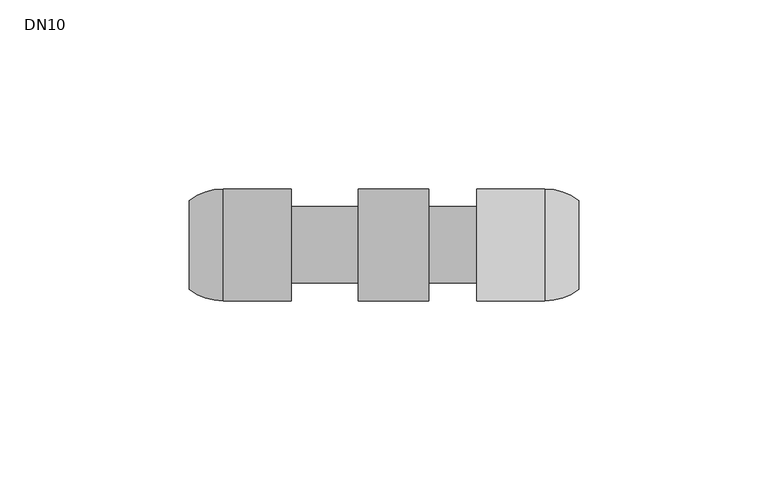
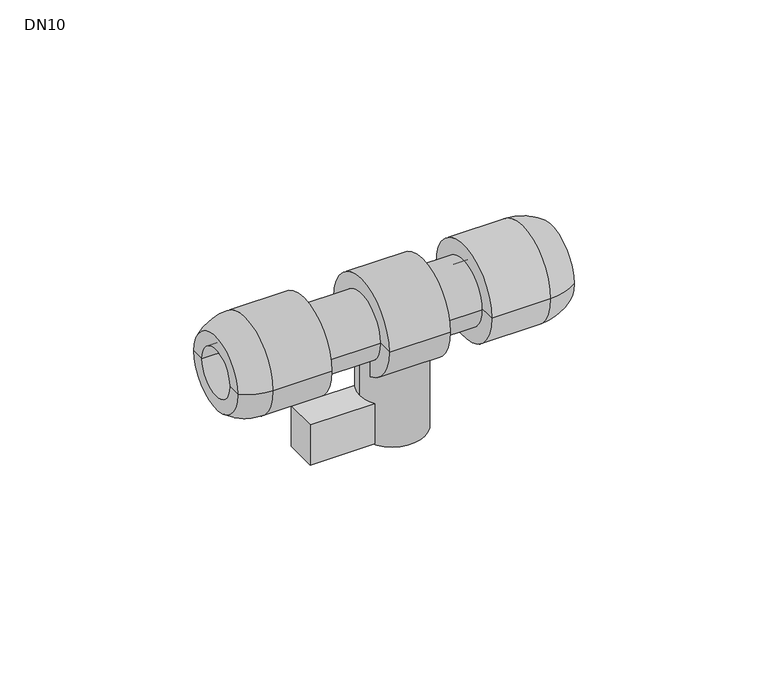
"""IFC4 building model written with IfcOpenShell, lengths in millimetres: valve geometry, Wavin_PipeAccessory_Hep2oBallValveBrass : DN10."""

from ifc_helpers import new_model, si_unit, point, frame, frame_2d, origin, place, context, project, spatial, polyline, circle_curve, ellipse_curve, trimmed, segment, composite_curve, outline, extrude, source, transform, mapped, element, save
from ifc_brep_helpers import plane_surface, cylinder_surface, revolved_surface, advanced_brep


def dn10_fe27804f(model_context):
    return source(origin(), model_context, "Body", "SolidModel", [
        advanced_brep(
        [(22.0, 7.5, 0.0), (22.0, -7.5, 0.0), (49.0, -7.5, 0.0), (49.0, 7.5, 0.0), (22.0, 14.8, 0.0), (22.0, -14.8, 0.0), (40.0, 14.8, 0.0), (40.0, -14.8, 0.0), (49.0, 11.7490425, 0.0), (49.0, -11.7490425, 0.0)],
        [
            (0, 1, circle_curve(frame((22.0, 0.0, 0.0), z_axis=(-1.0, 0.0, 0.0), x_axis=(0.0, -1.0000000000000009, 0.0)), 7.5)),
            (1, 2),
            (2, 3, circle_curve(frame((49.0, 0.0, 0.0), z_axis=(1.0, 0.0, 0.0), x_axis=(0.0, -1.0000000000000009, 0.0)), 7.5)),
            (3, 0),
            (1, 0, circle_curve(frame((22.0, 0.0, 0.0), z_axis=(-1.0, 0.0, 0.0), x_axis=(0.0, -1.0000000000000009, 0.0)), 7.5)),
            (3, 2, circle_curve(frame((49.0, 0.0, 0.0), z_axis=(1.0, 0.0, 0.0), x_axis=(0.0, -1.0000000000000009, 0.0)), 7.5)),
            (4, 5, circle_curve(frame((22.0, 0.0, 0.0), z_axis=(-1.0, 0.0, 0.0), x_axis=(0.0, -1.0000000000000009, 0.0)), 14.8)),
            (5, 1),
            (0, 4),
            (5, 4, circle_curve(frame((22.0, 0.0, 0.0), z_axis=(-1.0, 0.0, 0.0), x_axis=(0.0, -1.0000000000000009, 0.0)), 14.8)),
            (6, 7, circle_curve(frame((40.0, 0.0, 0.0), z_axis=(-1.0, 0.0, 0.0), x_axis=(0.0, -1.0000000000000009, 0.0)), 14.8)),
            (7, 5),
            (4, 6),
            (7, 6, circle_curve(frame((40.0, 0.0, 0.0), z_axis=(-1.0, 0.0, 0.0), x_axis=(0.0, -1.0000000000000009, 0.0)), 14.8)),
            (8, 9, circle_curve(frame((49.0, 0.0, 0.0), z_axis=(-1.0, 0.0, 0.0), x_axis=(0.0, -1.0000000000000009, 0.0)), 11.7490425)),
            (9, 7, circle_curve(frame((40.0, 0.0, 0.0), z_axis=(0.0, 0.0, -1.0000000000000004), x_axis=(-1.0000000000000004, 0.0, 0.0)), 14.8)),
            (6, 8, circle_curve(frame((40.0, 0.0, 0.0), z_axis=(0.0, 0.0, -1.0000000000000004), x_axis=(-1.0000000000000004, 0.0, 0.0)), 14.8)),
            (9, 8, circle_curve(frame((49.0, 0.0, 0.0), z_axis=(-1.0, 0.0, 0.0), x_axis=(0.0, -1.0000000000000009, 0.0)), 11.7490425)),
            (2, 9),
            (8, 3),
        ],
        [
            revolved_surface(polyline([(49.00000000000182, -7.500000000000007, 0.0), (22.00000000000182, -7.500000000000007, 0.0)]), (-1978.0, 0.0, 0.0), (1.0000000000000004, 0.0, 0.0)),
            plane_surface(frame((22.0, 0.0, 0.0), z_axis=(-1.0, 0.0, 0.0), x_axis=(0.0, -1.0, 0.0))),
            cylinder_surface(frame((-1978.0, 0.0, 0.0), z_axis=(1.0000000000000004, 0.0, 0.0), x_axis=(0.0, -1.0000000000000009, 0.0)), 14.8),
            revolved_surface(trimmed(ellipse_curve(frame((40.0, 0.0, 0.0), z_axis=(0.0, 0.0, 1.0000000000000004), x_axis=(-1.0000000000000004, 0.0, 0.0)), 14.8, 14.8), [point((40.0, -14.8, 0.0))], [point((49.0, -11.7490425, 0.0))], True, "CARTESIAN"), (-1978.0, 0.0, 0.0), (1.0000000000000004, 0.0, 0.0)),
            plane_surface(frame((49.0, 0.0, 0.0), z_axis=(1.0, 0.0, 0.0), x_axis=(0.0, -1.0, 0.0))),
        ],
        [
            (0, [[1, 2, 3, 4]]),
            (0, [[5, -4, 6, -2]]),
            (1, [[7, 8, -1, 9]]),
            (1, [[10, -9, -5, -8]]),
            (2, [[11, 12, -7, 13]]),
            (2, [[14, -13, -10, -12]]),
            (3, [[15, 16, -11, 17]]),
            (3, [[18, -17, -14, -16]]),
            (4, [[-3, 19, -15, 20]]),
            (4, [[-6, -20, -18, -19]]),
        ],
    ),
        advanced_brep(
        [(-27.0, -7.5, 0.0), (-27.0, 7.5, 0.0), (-54.0, 7.5, 0.0), (-54.0, -7.5, 0.0), (-27.0, -14.8, 0.0), (-27.0, 14.8, 0.0), (-45.0, -14.8, 0.0), (-45.0, 14.8, 0.0), (-54.0, -11.7490425, 0.0), (-54.0, 11.7490425, 0.0)],
        [
            (0, 1, circle_curve(frame((-27.0, 0.0, 0.0), z_axis=(1.0, 0.0, 0.0), x_axis=(0.0, 1.0, 0.0)), 7.5)),
            (1, 2),
            (2, 3, circle_curve(frame((-54.0, 0.0, 0.0), z_axis=(-1.0, 0.0, 0.0), x_axis=(0.0, 1.0, 0.0)), 7.5)),
            (3, 0),
            (1, 0, circle_curve(frame((-27.0, 0.0, 0.0), z_axis=(1.0, 0.0, 0.0), x_axis=(0.0, 1.0, 0.0)), 7.5)),
            (3, 2, circle_curve(frame((-54.0, 0.0, 0.0), z_axis=(-1.0, 0.0, 0.0), x_axis=(0.0, 1.0, 0.0)), 7.5)),
            (4, 5, circle_curve(frame((-27.0, 0.0, 0.0), z_axis=(1.0, 0.0, 0.0), x_axis=(0.0, 1.0, 0.0)), 14.8)),
            (5, 1),
            (0, 4),
            (5, 4, circle_curve(frame((-27.0, 0.0, 0.0), z_axis=(1.0, 0.0, 0.0), x_axis=(0.0, 1.0, 0.0)), 14.8)),
            (6, 7, circle_curve(frame((-45.0, 0.0, 0.0), z_axis=(1.0, 0.0, 0.0), x_axis=(0.0, 1.0, 0.0)), 14.8)),
            (7, 5),
            (4, 6),
            (7, 6, circle_curve(frame((-45.0, 0.0, 0.0), z_axis=(1.0, 0.0, 0.0), x_axis=(0.0, 1.0, 0.0)), 14.8)),
            (8, 9, circle_curve(frame((-54.0, 0.0, 0.0), z_axis=(1.0, 0.0, 0.0), x_axis=(0.0, 1.0, 0.0)), 11.7490425)),
            (9, 7, circle_curve(frame((-45.0, 0.0, 0.0), z_axis=(0.0, 0.0, -1.0), x_axis=(1.0, 0.0, 0.0)), 14.8)),
            (6, 8, circle_curve(frame((-45.0, 0.0, 0.0), z_axis=(0.0, 0.0, -1.0), x_axis=(1.0, 0.0, 0.0)), 14.8)),
            (9, 8, circle_curve(frame((-54.0, 0.0, 0.0), z_axis=(1.0, 0.0, 0.0), x_axis=(0.0, 1.0, 0.0)), 11.7490425)),
            (2, 9),
            (8, 3),
        ],
        [
            revolved_surface(polyline([(-54.0, 7.5, 0.0), (-27.0, 7.5, 0.0)]), (1973.0, 0.0, 0.0), (-1.0, 0.0, 0.0)),
            plane_surface(frame((-27.0, 0.0, 0.0), z_axis=(1.0, 0.0, 0.0), x_axis=(0.0, 1.0, 0.0))),
            cylinder_surface(frame((1973.0, 0.0, 0.0), z_axis=(-1.0, 0.0, 0.0), x_axis=(0.0, 1.0, 0.0)), 14.8),
            revolved_surface(trimmed(ellipse_curve(frame((-45.0, 0.0, 0.0), z_axis=(0.0, 0.0, 1.0), x_axis=(1.0, 0.0, 0.0)), 14.8, 14.8), [point((-45.0, 14.8, 0.0))], [point((-54.0, 11.7490425, 0.0))], True, "CARTESIAN"), (1973.0, 0.0, 0.0), (-1.0, 0.0, 0.0)),
            plane_surface(frame((-54.0, 0.0, 0.0), z_axis=(-1.0, 0.0, 0.0), x_axis=(0.0, 1.0, 0.0))),
        ],
        [
            (0, [[1, 2, 3, 4]]),
            (0, [[5, -4, 6, -2]]),
            (1, [[7, 8, -1, 9]]),
            (1, [[10, -9, -5, -8]]),
            (2, [[11, 12, -7, 13]]),
            (2, [[14, -13, -10, -12]]),
            (3, [[15, 16, -11, 17]]),
            (3, [[18, -17, -14, -16]]),
            (4, [[-3, 19, -15, 20]]),
            (4, [[-6, -20, -18, -19]]),
        ],
    ),
        extrude(outline(polyline([(0.0, 5.0), (0.0, -5.0), (-28.0, -5.0), (-28.0, 5.0), (0.0, 5.0)])), frame((0.0, 0.0, -36.0), z_axis=(0.0, 0.0, 1.0), x_axis=(1.0, 0.0, 0.0)), (0.0, 0.0, 1.0), 13.0),
        extrude(outline(composite_curve([segment(trimmed(circle_curve(frame_2d((0.0, -0.0148716)), 10.0), [point((-10.0, -0.0148716))], [point((10.0, -0.0148716))], False, "CARTESIAN"), True, "CONTINUOUS"), segment(trimmed(circle_curve(frame_2d((0.0, -0.0148716)), 10.0), [point((10.0, -0.0148716))], [point((-10.0, -0.0148716))], False, "CARTESIAN"), True, "CONTINUOUS")], self_intersect=False)), frame((0.0, 0.0, -36.0), z_axis=(0.0, 0.0, 1.0), x_axis=(1.0, 0.0, 0.0)), (0.0, 0.0, 1.0), 36.0),
        advanced_brep(
        [(-27.0, 0.0, 0.0), (-27.0, 10.1, 0.0), (-27.0, -10.1, 0.0), (22.0, -10.1, 0.0), (22.0, 10.1, 0.0), (22.0, 0.0, 0.0), (9.3448333, -10.1, 0.0), (9.3448333, 10.1, 0.0), (9.3448333, -14.8, 0.0), (9.3448333, 14.8, 0.0), (-9.3448333, -14.8, 0.0), (-9.3448333, 14.8, 0.0), (-9.3448333, -10.1, 0.0), (-9.3448333, 10.1, 0.0)],
        [
            (0, 1),
            (1, 2, circle_curve(frame((-27.0, 0.0, 0.0), z_axis=(-1.0, 0.0, 0.0), x_axis=(0.0, 1.0, 0.0)), 10.1)),
            (2, 0),
            (2, 1, circle_curve(frame((-27.0, 0.0, 0.0), z_axis=(-1.0, 0.0, 0.0), x_axis=(0.0, 1.0, 0.0)), 10.1)),
            (3, 4, circle_curve(frame((22.0, 0.0, 0.0), z_axis=(1.0, 0.0, 0.0), x_axis=(0.0, 1.0, 0.0)), 10.1)),
            (4, 5),
            (5, 3),
            (4, 3, circle_curve(frame((22.0, 0.0, 0.0), z_axis=(1.0, 0.0, 0.0), x_axis=(0.0, 1.0, 0.0)), 10.1)),
            (6, 7, circle_curve(frame((9.3448333, 0.0, 0.0), z_axis=(1.0, 0.0, 0.0), x_axis=(0.0, 1.0, 0.0)), 10.1)),
            (7, 4),
            (3, 6),
            (7, 6, circle_curve(frame((9.3448333, 0.0, 0.0), z_axis=(1.0, 0.0, 0.0), x_axis=(0.0, 1.0, 0.0)), 10.1)),
            (8, 9, circle_curve(frame((9.3448333, 0.0, 0.0), z_axis=(1.0, 0.0, 0.0), x_axis=(0.0, 1.0, 0.0)), 14.8)),
            (9, 7),
            (6, 8),
            (9, 8, circle_curve(frame((9.3448333, 0.0, 0.0), z_axis=(1.0, 0.0, 0.0), x_axis=(0.0, 1.0, 0.0)), 14.8)),
            (10, 11, circle_curve(frame((-9.3448333, 0.0, 0.0), z_axis=(1.0, 0.0, 0.0), x_axis=(0.0, 1.0, 0.0)), 14.8)),
            (11, 9),
            (8, 10),
            (11, 10, circle_curve(frame((-9.3448333, 0.0, 0.0), z_axis=(1.0, 0.0, 0.0), x_axis=(0.0, 1.0, 0.0)), 14.8)),
            (12, 13, circle_curve(frame((-9.3448333, 0.0, 0.0), z_axis=(1.0, 0.0, 0.0), x_axis=(0.0, 1.0, 0.0)), 10.1)),
            (13, 11),
            (10, 12),
            (13, 12, circle_curve(frame((-9.3448333, 0.0, 0.0), z_axis=(1.0, 0.0, 0.0), x_axis=(0.0, 1.0, 0.0)), 10.1)),
            (1, 13),
            (12, 2),
        ],
        [
            plane_surface(frame((-27.0, 0.0, 0.0), z_axis=(-1.0, 0.0, 0.0), x_axis=(0.0, 1.0, 0.0))),
            plane_surface(frame((22.0, 0.0, 0.0), z_axis=(1.0, 0.0, 0.0), x_axis=(0.0, 1.0, 0.0))),
            cylinder_surface(frame((-27.0, 0.0, 0.0), z_axis=(-1.0, 0.0, 0.0), x_axis=(0.0, 1.0, 0.0)), 10.1),
            plane_surface(frame((9.3448333, 0.0, 0.0), z_axis=(1.0, 0.0, 0.0), x_axis=(0.0, 1.0, 0.0))),
            cylinder_surface(frame((-27.0, 0.0, 0.0), z_axis=(-1.0, 0.0, 0.0), x_axis=(0.0, 1.0, 0.0)), 14.8),
            plane_surface(frame((-9.3448333, 0.0, 0.0), z_axis=(-1.0, 0.0, 0.0), x_axis=(0.0, 1.0, 0.0))),
        ],
        [
            (0, [[1, 2, 3]]),
            (0, [[-3, 4, -1]]),
            (1, [[5, 6, 7]]),
            (1, [[8, -7, -6]]),
            (2, [[9, 10, -5, 11]]),
            (2, [[12, -11, -8, -10]]),
            (3, [[13, 14, -9, 15]]),
            (3, [[16, -15, -12, -14]]),
            (4, [[17, 18, -13, 19]]),
            (4, [[20, -19, -16, -18]]),
            (5, [[21, 22, -17, 23]]),
            (5, [[24, -23, -20, -22]]),
            (2, [[-2, 25, -21, 26]]),
            (2, [[-4, -26, -24, -25]]),
        ],
    ),
    ])


if __name__ == "__main__":
    model = new_model("IFC4")
    model_context = context("Model", 3, world=origin())
    ifc_project = project(units=[si_unit("LENGTHUNIT", "METRE", prefix="MILLI")], contexts=[model_context])
    site = spatial("IfcSite", under=ifc_project)
    building = spatial("IfcBuilding", under=site)
    placement = place(None, origin())
    dn10_shape = dn10_fe27804f(model_context)
    element("IfcValve", 1, ObjectType="Wavin_PipeAccessory_Hep2oBallValveBrass : DN10", at=placement, inside=building, context=model_context, shape_type="MappedRepresentation", body=[
        mapped(dn10_shape, transform((0.0, 0.0, 0.0), x_axis=(1.0, 0.0, 0.0), y_axis=(0.0, 1.0, 0.0), z_axis=(0.0, 0.0, 1.0))),
    ])
    save(model, "model.ifc")
